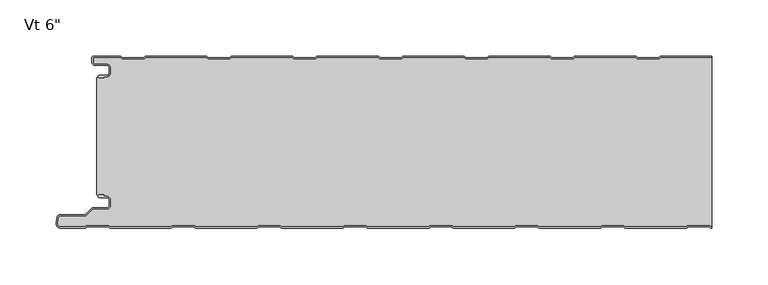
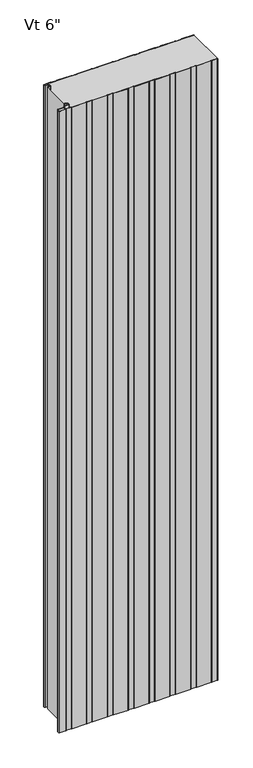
"""IFC4 building model written with IfcOpenShell, lengths in millimetres: plate geometry."""

from ifc_helpers import new_model, si_unit, point, frame, frame_2d, origin, origin_with_axes, place, context, project, spatial, polyline, circle_curve, trimmed, segment, composite_curve, outline, extrude, source, transform, mapped, element, save
from ifc_brep_helpers import plane_surface, cylinder_surface, revolved_surface, advanced_brep


def plate_2dc741f4(model_context):
    return source(origin(), model_context, "Body", "SolidModel", [
        advanced_brep(
        [(-270.768691, -17.0015159, 2400.0), (-271.7686883, -18.0015191, 2400.0), (-270.768691, -19.0015105, 2400.0), (-266.7684874, -19.0015105, 2400.0), (-266.7684874, -18.0015159, 2400.0), (-264.0762776, -18.0015159, 2400.0), (-260.7762819, -14.7015202, 2400.0), (-260.7762819, -10.301529, 2400.0), (-264.0762774, -7.0015335, 2400.0), (-274.4962563, -7.0015335, 2400.0), (-276.2662505, -5.2315393, 2400.0), (-276.2662505, -0.9999916, 2400.0), (-251.7659738, -0.9999916, 2400.0), (-250.3803312, -2.2002307, 2400.0), (-231.0051649, -2.2002307, 2400.0), (-229.619532, -1.0, 2400.0), (-175.5661166, -1.0, 2400.0), (-174.1804836, -2.2002307, 2400.0), (-154.8053173, -2.2002307, 2400.0), (-153.4196844, -1.0, 2400.0), (-99.366269, -1.0, 2400.0), (-97.980636, -2.2002307, 2400.0), (-78.6054697, -2.2002307, 2400.0), (-77.2198368, -1.0, 2400.0), (-23.1664214, -1.0, 2400.0), (-21.7807884, -2.2002307, 2400.0), (-2.4056221, -2.2002307, 2400.0), (-1.0199892, -1.0, 2400.0), (53.0334262, -1.0, 2400.0), (54.4190592, -2.2002307, 2400.0), (73.7942255, -2.2002307, 2400.0), (75.1798584, -1.0, 2400.0), (129.2332738, -1.0, 2400.0), (130.6189068, -2.2002307, 2400.0), (149.9940731, -2.2002307, 2400.0), (151.379706, -1.0, 2400.0), (205.4331214, -1.0, 2400.0), (206.8187544, -2.2002307, 2400.0), (226.1939207, -2.2002307, 2400.0), (227.5795536, -1.0, 2400.0), (272.7999998, -1.0, 2400.0), (272.7999998, 0.0, 2400.0), (227.7287048, 0.0, 2400.0), (226.8120879, -0.3417885, 2400.0), (225.8210403, -1.2002307, 2400.0), (207.1916348, -1.2002307, 2400.0), (206.2005872, -0.3417885, 2400.0), (205.2839703, 0.0, 2400.0), (151.5288572, 0.0, 2400.0), (150.6122403, -0.3417885, 2400.0), (149.6211927, -1.2002307, 2400.0), (130.9917872, -1.2002307, 2400.0), (130.0007396, -0.3417885, 2400.0), (129.0841227, 0.0, 2400.0), (75.3290096, 0.0, 2400.0), (74.4123927, -0.3417885, 2400.0), (73.4213451, -1.2002307, 2400.0), (54.7919396, -1.2002307, 2400.0), (53.800892, -0.3417885, 2400.0), (52.8842751, 0.0, 2400.0), (-0.870838, 0.0, 2400.0), (-1.7874549, -0.3417885, 2400.0), (-2.7785025, -1.2002307, 2400.0), (-21.407908, -1.2002307, 2400.0), (-22.3989556, -0.3417885, 2400.0), (-23.3155725, 0.0, 2400.0), (-77.0706856, 0.0, 2400.0), (-77.9873025, -0.3417885, 2400.0), (-78.9783501, -1.2002307, 2400.0), (-97.6077556, -1.2002307, 2400.0), (-98.5988032, -0.3417885, 2400.0), (-99.5154201, 0.0, 2400.0), (-153.2705332, 0.0, 2400.0), (-154.1871501, -0.3417885, 2400.0), (-155.1781977, -1.2002307, 2400.0), (-173.8076032, -1.2002307, 2400.0), (-174.7986508, -0.3417885, 2400.0), (-175.7152677, 0.0, 2400.0), (-229.4703808, 0.0, 2400.0), (-230.3869977, -0.3417885, 2400.0), (-231.3780453, -1.2002307, 2400.0), (-250.0074508, -1.2002307, 2400.0), (-250.9984984, -0.3417885, 2400.0), (-251.9152067, 0.0, 2400.0), (-275.8662543, 8.4e-06, 2400.0), (-277.2662505, -1.3999878, 2400.0), (-277.2662505, -5.2315393, 2400.0), (-274.4962563, -8.0015335, 2400.0), (-264.0762774, -8.0015335, 2400.0), (-261.7762819, -10.301529, 2400.0), (-261.7762819, -14.7015202, 2400.0), (-264.0762776, -17.0015159, 2400.0), (-270.768691, -17.0015159, 0.0), (-264.0762776, -17.0015159, 0.0), (-261.7762819, -14.7015202, 0.0), (-261.7762819, -10.301529, 0.0), (-264.0762774, -8.0015335, 0.0), (-274.4962563, -8.0015335, 0.0), (-277.2662505, -5.2315393, 0.0), (-277.2662505, -1.3999878, 0.0), (-275.8662543, 8.4e-06, 0.0), (-251.9151153, 8.4e-06, 0.0), (-250.9984984, -0.3417885, 0.0), (-250.0074508, -1.2002307, 0.0), (-231.3780453, -1.2002307, 0.0), (-230.3869977, -0.3417885, 0.0), (-229.4703808, 0.0, 0.0), (-175.7152677, 0.0, 0.0), (-174.7986508, -0.3417885, 0.0), (-173.8076032, -1.2002307, 0.0), (-155.1781977, -1.2002307, 0.0), (-154.1871501, -0.3417885, 0.0), (-153.2705332, 0.0, 0.0), (-99.5154201, 0.0, 0.0), (-98.5988032, -0.3417885, 0.0), (-97.6077556, -1.2002307, 0.0), (-78.9783501, -1.2002307, 0.0), (-77.9873025, -0.3417885, 0.0), (-77.0706856, 0.0, 0.0), (-23.3155725, 0.0, 0.0), (-22.3989556, -0.3417885, 0.0), (-21.407908, -1.2002307, 0.0), (-2.7785025, -1.2002307, 0.0), (-1.7874549, -0.3417885, 0.0), (-0.870838, 0.0, 0.0), (52.8842751, 0.0, 0.0), (53.800892, -0.3417885, 0.0), (54.7919396, -1.2002307, 0.0), (73.4213451, -1.2002307, 0.0), (74.4123927, -0.3417885, 0.0), (75.3290096, 0.0, 0.0), (129.0841227, 0.0, 0.0), (130.0007396, -0.3417885, 0.0), (130.9917872, -1.2002307, 0.0), (149.6211927, -1.2002307, 0.0), (150.6122403, -0.3417885, 0.0), (151.5288572, 0.0, 0.0), (205.2839703, 0.0, 0.0), (206.2005872, -0.3417885, 0.0), (207.1916348, -1.2002307, 0.0), (225.8210403, -1.2002307, 0.0), (226.8120879, -0.3417885, 0.0), (227.7287048, 0.0, 0.0), (272.7999998, 0.0, 0.0), (272.7999998, -1.0, 0.0), (227.5795536, -1.0, 0.0), (226.1939207, -2.2002307, 0.0), (206.8187544, -2.2002307, 0.0), (205.4331214, -1.0, 0.0), (151.379706, -1.0, 0.0), (149.9940731, -2.2002307, 0.0), (130.6189068, -2.2002307, 0.0), (129.2332738, -1.0, 0.0), (75.1798584, -1.0, 0.0), (73.7942255, -2.2002307, 0.0), (54.4190592, -2.2002307, 0.0), (53.0334262, -1.0, 0.0), (-1.0199892, -1.0, 0.0), (-2.4056221, -2.2002307, 0.0), (-21.7807884, -2.2002307, 0.0), (-23.1664214, -1.0, 0.0), (-77.2198368, -1.0, 0.0), (-78.6054697, -2.2002307, 0.0), (-97.980636, -2.2002307, 0.0), (-99.366269, -1.0, 0.0), (-153.4196844, -1.0, 0.0), (-154.8053173, -2.2002307, 0.0), (-174.1804836, -2.2002307, 0.0), (-175.5661166, -1.0, 0.0), (-229.619532, -1.0, 0.0), (-231.0051649, -2.2002307, 0.0), (-250.3803312, -2.2002307, 0.0), (-251.7659738, -0.9999916, 0.0), (-276.2662505, -0.9999916, 0.0), (-276.2662505, -5.2315393, 0.0), (-274.4962563, -7.0015335, 0.0), (-264.0762774, -7.0015335, 0.0), (-260.7762819, -10.301529, 0.0), (-260.7762819, -14.7015202, 0.0), (-264.0762776, -18.0015159, 0.0), (-266.7684874, -18.0015159, 0.0), (-266.7684874, -19.0015105, 0.0), (-270.768691, -19.0015105, 0.0), (-271.7686882, -18.0015192, 0.0)],
        [
            (0, 1, circle_curve(frame((-270.768691, -18.0015132, 2400.0), z_axis=(0.0, 0.0, 1.0), x_axis=(1.0, 0.0, 0.0)), 0.9999973)),
            (1, 2, circle_curve(frame((-270.768691, -18.0015133, 2400.0), z_axis=(0.0, 0.0, 1.0), x_axis=(1.0, 0.0, 0.0)), 0.9999972)),
            (2, 3),
            (3, 4),
            (4, 5),
            (5, 6, circle_curve(frame((-264.0762776, -14.7015202, 2400.0), z_axis=(0.0, 0.0, 1.0), x_axis=(1.0, 0.0, 0.0)), 3.2999957)),
            (6, 7),
            (7, 8, circle_curve(frame((-264.0762774, -10.301529, 2400.0), z_axis=(0.0, 0.0, 1.0), x_axis=(1.0, 0.0, 0.0)), 3.2999955)),
            (8, 9),
            (9, 10, circle_curve(frame((-274.4962563, -5.2315393, 2400.0), z_axis=(0.0, 0.0, -1.0), x_axis=(1.0, 0.0, 0.0)), 1.7699942)),
            (10, 11),
            (11, 12),
            (12, 13),
            (13, 14),
            (14, 15),
            (15, 16),
            (16, 17),
            (17, 18),
            (18, 19),
            (19, 20),
            (20, 21),
            (21, 22),
            (22, 23),
            (23, 24),
            (24, 25),
            (25, 26),
            (26, 27),
            (27, 28),
            (28, 29),
            (29, 30),
            (30, 31),
            (31, 32),
            (32, 33),
            (33, 34),
            (34, 35),
            (35, 36),
            (36, 37),
            (37, 38),
            (38, 39),
            (39, 40),
            (40, 41),
            (41, 42),
            (42, 43, circle_curve(frame((227.7287048, -1.3999972, 2400.0), z_axis=(0.0, 0.0, 1.0), x_axis=(1.0, 0.0, 0.0)), 1.3999972)),
            (43, 44),
            (44, 45),
            (45, 46),
            (46, 47, circle_curve(frame((205.2839703, -1.3999972, 2400.0), z_axis=(0.0, 0.0, 1.0), x_axis=(1.0, 0.0, 0.0)), 1.3999972)),
            (47, 48),
            (48, 49, circle_curve(frame((151.5288572, -1.3999972, 2400.0), z_axis=(0.0, 0.0, 1.0), x_axis=(1.0, 0.0, 0.0)), 1.3999972)),
            (49, 50),
            (50, 51),
            (51, 52),
            (52, 53, circle_curve(frame((129.0841227, -1.3999972, 2400.0), z_axis=(0.0, 0.0, 1.0), x_axis=(1.0, 0.0, 0.0)), 1.3999972)),
            (53, 54),
            (54, 55, circle_curve(frame((75.3290096, -1.3999972, 2400.0), z_axis=(0.0, 0.0, 1.0), x_axis=(1.0, 0.0, 0.0)), 1.3999972)),
            (55, 56),
            (56, 57),
            (57, 58),
            (58, 59, circle_curve(frame((52.8842751, -1.3999972, 2400.0), z_axis=(0.0, 0.0, 1.0), x_axis=(1.0, 0.0, 0.0)), 1.3999972)),
            (59, 60),
            (60, 61, circle_curve(frame((-0.870838, -1.3999972, 2400.0), z_axis=(0.0, 0.0, 1.0), x_axis=(1.0, 0.0, 0.0)), 1.3999972)),
            (61, 62),
            (62, 63),
            (63, 64),
            (64, 65, circle_curve(frame((-23.3155725, -1.3999972, 2400.0), z_axis=(0.0, 0.0, 1.0), x_axis=(1.0, 0.0, 0.0)), 1.3999972)),
            (65, 66),
            (66, 67, circle_curve(frame((-77.0706856, -1.3999972, 2400.0), z_axis=(0.0, 0.0, 1.0), x_axis=(1.0, 0.0, 0.0)), 1.3999972)),
            (67, 68),
            (68, 69),
            (69, 70),
            (70, 71, circle_curve(frame((-99.5154201, -1.3999972, 2400.0), z_axis=(0.0, 0.0, 1.0), x_axis=(1.0, 0.0, 0.0)), 1.3999972)),
            (71, 72),
            (72, 73, circle_curve(frame((-153.2705332, -1.3999972, 2400.0), z_axis=(0.0, 0.0, 1.0), x_axis=(1.0, 0.0, 0.0)), 1.3999972)),
            (73, 74),
            (74, 75),
            (75, 76),
            (76, 77, circle_curve(frame((-175.7152677, -1.3999972, 2400.0), z_axis=(0.0, 0.0, 1.0), x_axis=(1.0, 0.0, 0.0)), 1.3999972)),
            (77, 78),
            (78, 79, circle_curve(frame((-229.4703808, -1.3999972, 2400.0), z_axis=(0.0, 0.0, 1.0), x_axis=(1.0, 0.0, 0.0)), 1.3999972)),
            (79, 80),
            (80, 81),
            (81, 82),
            (82, 83, circle_curve(frame((-251.9151153, -1.3999972, 2400.0), z_axis=(0.0, 0.0, 1.0), x_axis=(1.0, 0.0, 0.0)), 1.3999972)),
            (83, 84),
            (84, 85, circle_curve(frame((-275.8662543, -1.3999878, 2400.0), z_axis=(0.0, 0.0, 1.0), x_axis=(1.0, 0.0, 0.0)), 1.3999962)),
            (85, 86),
            (86, 87, circle_curve(frame((-274.4962563, -5.2315393, 2400.0), z_axis=(0.0, 0.0, 1.0), x_axis=(1.0, 0.0, 0.0)), 2.7699942)),
            (87, 88),
            (88, 89, circle_curve(frame((-264.0762774, -10.301529, 2400.0), z_axis=(0.0, 0.0, -1.0), x_axis=(1.0, 0.0, 0.0)), 2.2999955)),
            (89, 90),
            (90, 91, circle_curve(frame((-264.0762776, -14.7015202, 2400.0), z_axis=(0.0, 0.0, -1.0), x_axis=(1.0, 0.0, 0.0)), 2.2999957)),
            (91, 0),
            (92, 93),
            (93, 94, circle_curve(frame((-264.0762776, -14.7015202, 0.0), z_axis=(0.0, 0.0, 1.0), x_axis=(1.0, 0.0, 0.0)), 2.2999957)),
            (94, 95),
            (95, 96, circle_curve(frame((-264.0762774, -10.301529, 0.0), z_axis=(0.0, 0.0, 1.0), x_axis=(1.0, 0.0, 0.0)), 2.2999955)),
            (96, 97),
            (97, 98, circle_curve(frame((-274.4962563, -5.2315393, 0.0), z_axis=(0.0, 0.0, -1.0), x_axis=(1.0, 0.0, 0.0)), 2.7699942)),
            (98, 99),
            (99, 100, circle_curve(frame((-275.8662543, -1.3999878, 0.0), z_axis=(0.0, 0.0, -1.0), x_axis=(1.0, 0.0, 0.0)), 1.3999962)),
            (100, 101),
            (101, 102, circle_curve(frame((-251.9151153, -1.3999972, 0.0), z_axis=(0.0, 0.0, -1.0), x_axis=(1.0, 0.0, 0.0)), 1.3999972)),
            (102, 103),
            (103, 104),
            (104, 105),
            (105, 106, circle_curve(frame((-229.4703808, -1.3999972, 0.0), z_axis=(0.0, 0.0, -1.0), x_axis=(1.0, 0.0, 0.0)), 1.3999972)),
            (106, 107),
            (107, 108, circle_curve(frame((-175.7152677, -1.3999972, 0.0), z_axis=(0.0, 0.0, -1.0), x_axis=(1.0, 0.0, 0.0)), 1.3999972)),
            (108, 109),
            (109, 110),
            (110, 111),
            (111, 112, circle_curve(frame((-153.2705332, -1.3999972, 0.0), z_axis=(0.0, 0.0, -1.0), x_axis=(1.0, 0.0, 0.0)), 1.3999972)),
            (112, 113),
            (113, 114, circle_curve(frame((-99.5154201, -1.3999972, 0.0), z_axis=(0.0, 0.0, -1.0), x_axis=(1.0, 0.0, 0.0)), 1.3999972)),
            (114, 115),
            (115, 116),
            (116, 117),
            (117, 118, circle_curve(frame((-77.0706856, -1.3999972, 0.0), z_axis=(0.0, 0.0, -1.0), x_axis=(1.0, 0.0, 0.0)), 1.3999972)),
            (118, 119),
            (119, 120, circle_curve(frame((-23.3155725, -1.3999972, 0.0), z_axis=(0.0, 0.0, -1.0), x_axis=(1.0, 0.0, 0.0)), 1.3999972)),
            (120, 121),
            (121, 122),
            (122, 123),
            (123, 124, circle_curve(frame((-0.870838, -1.3999972, 0.0), z_axis=(0.0, 0.0, -1.0), x_axis=(1.0, 0.0, 0.0)), 1.3999972)),
            (124, 125),
            (125, 126, circle_curve(frame((52.8842751, -1.3999972, 0.0), z_axis=(0.0, 0.0, -1.0), x_axis=(1.0, 0.0, 0.0)), 1.3999972)),
            (126, 127),
            (127, 128),
            (128, 129),
            (129, 130, circle_curve(frame((75.3290096, -1.3999972, 0.0), z_axis=(0.0, 0.0, -1.0), x_axis=(1.0, 0.0, 0.0)), 1.3999972)),
            (130, 131),
            (131, 132, circle_curve(frame((129.0841227, -1.3999972, 0.0), z_axis=(0.0, 0.0, -1.0), x_axis=(1.0, 0.0, 0.0)), 1.3999972)),
            (132, 133),
            (133, 134),
            (134, 135),
            (135, 136, circle_curve(frame((151.5288572, -1.3999972, 0.0), z_axis=(0.0, 0.0, -1.0), x_axis=(1.0, 0.0, 0.0)), 1.3999972)),
            (136, 137),
            (137, 138, circle_curve(frame((205.2839703, -1.3999972, 0.0), z_axis=(0.0, 0.0, -1.0), x_axis=(1.0, 0.0, 0.0)), 1.3999972)),
            (138, 139),
            (139, 140),
            (140, 141),
            (141, 142, circle_curve(frame((227.7287048, -1.3999972, 0.0), z_axis=(0.0, 0.0, -1.0), x_axis=(1.0, 0.0, 0.0)), 1.3999972)),
            (142, 143),
            (143, 144),
            (144, 145),
            (145, 146),
            (146, 147),
            (147, 148),
            (148, 149),
            (149, 150),
            (150, 151),
            (151, 152),
            (152, 153),
            (153, 154),
            (154, 155),
            (155, 156),
            (156, 157),
            (157, 158),
            (158, 159),
            (159, 160),
            (160, 161),
            (161, 162),
            (162, 163),
            (163, 164),
            (164, 165),
            (165, 166),
            (166, 167),
            (167, 168),
            (168, 169),
            (169, 170),
            (170, 171),
            (171, 172),
            (172, 173),
            (173, 174),
            (174, 175, circle_curve(frame((-274.4962563, -5.2315393, 0.0), z_axis=(0.0, 0.0, 1.0), x_axis=(1.0, 0.0, 0.0)), 1.7699942)),
            (175, 176),
            (176, 177, circle_curve(frame((-264.0762774, -10.301529, 0.0), z_axis=(0.0, 0.0, -1.0), x_axis=(1.0, 0.0, 0.0)), 3.2999955)),
            (177, 178),
            (178, 179, circle_curve(frame((-264.0762776, -14.7015202, 0.0), z_axis=(0.0, 0.0, -1.0), x_axis=(1.0, 0.0, 0.0)), 3.2999957)),
            (179, 180),
            (180, 181),
            (181, 182),
            (182, 183, circle_curve(frame((-270.768691, -18.0015133, 0.0), z_axis=(0.0, 0.0, -1.0), x_axis=(1.0, 0.0, 0.0)), 0.9999972)),
            (183, 92, circle_curve(frame((-270.768691, -18.0015132, 0.0), z_axis=(0.0, 0.0, -1.0), x_axis=(1.0, 0.0, 0.0)), 0.9999973)),
            (91, 93),
            (92, 0),
            (90, 94),
            (89, 95),
            (88, 96),
            (87, 97),
            (86, 98),
            (85, 99),
            (84, 100),
            (83, 101),
            (10, 174),
            (173, 11),
            (9, 175),
            (8, 176),
            (7, 177),
            (6, 178),
            (5, 179),
            (4, 180),
            (3, 181),
            (2, 182),
            (1, 183),
            (40, 144),
            (143, 41),
            (82, 102),
            (81, 103),
            (80, 104),
            (79, 105),
            (78, 106),
            (77, 107),
            (76, 108),
            (75, 109),
            (74, 110),
            (73, 111),
            (72, 112),
            (71, 113),
            (70, 114),
            (69, 115),
            (68, 116),
            (67, 117),
            (66, 118),
            (65, 119),
            (64, 120),
            (63, 121),
            (62, 122),
            (61, 123),
            (60, 124),
            (59, 125),
            (58, 126),
            (57, 127),
            (56, 128),
            (55, 129),
            (54, 130),
            (53, 131),
            (52, 132),
            (51, 133),
            (50, 134),
            (49, 135),
            (48, 136),
            (47, 137),
            (46, 138),
            (45, 139),
            (44, 140),
            (43, 141),
            (42, 142),
            (39, 145),
            (38, 146),
            (37, 147),
            (36, 148),
            (35, 149),
            (34, 150),
            (33, 151),
            (32, 152),
            (31, 153),
            (30, 154),
            (29, 155),
            (28, 156),
            (27, 157),
            (26, 158),
            (25, 159),
            (24, 160),
            (23, 161),
            (22, 162),
            (21, 163),
            (20, 164),
            (19, 165),
            (18, 166),
            (17, 167),
            (16, 168),
            (15, 169),
            (14, 170),
            (13, 171),
            (12, 172),
        ],
        [
            plane_surface(frame((184.4000002, 0.0, 2400.0), z_axis=(0.0, 0.0, 1.0), x_axis=(0.0, 1.0, 0.0))),
            plane_surface(frame((184.4000002, 0.0, 0.0), z_axis=(0.0, 0.0, -1.0), x_axis=(0.0, 1.0, 0.0))),
            plane_surface(frame((-270.768691, -17.0015159, 2400.0), z_axis=(0.0, 1.0, 0.0), x_axis=(0.0, 0.0, -1.0))),
            revolved_surface(polyline([(-261.7762819, -14.7015202, 0.0), (-261.7762819, -14.7015202, 2400.0)]), (-264.0762776, -14.7015202, 2400.0), (0.0, 0.0, -1.0)),
            plane_surface(frame((-261.7762819, -14.7015202, 2400.0), z_axis=(-1.0, 0.0, 0.0), x_axis=(0.0, 0.0, -1.0))),
            revolved_surface(polyline([(-261.77628189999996, -10.301529, 0.0), (-261.77628189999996, -10.301529, 2400.0)]), (-264.0762774, -10.301529, 2400.0), (0.0, 0.0, -1.0)),
            plane_surface(frame((-264.0762774, -8.0015335, 2400.0), z_axis=(0.0, -1.0, 0.0), x_axis=(0.0, 0.0, -1.0))),
            cylinder_surface(frame((-274.4962563, -5.2315393, 2400.0), z_axis=(0.0, 0.0, 1.0), x_axis=(1.0, 0.0, 0.0)), 2.7699942),
            plane_surface(frame((-277.2662505, -5.2315393, 2400.0), z_axis=(-1.0, 0.0, 0.0), x_axis=(0.0, 0.0, -1.0))),
            cylinder_surface(frame((-275.8662543, -1.3999878, 2400.0), z_axis=(0.0, 0.0, 1.0), x_axis=(1.0, 0.0, 0.0)), 1.3999962),
            plane_surface(frame((-275.8662543, 8.4e-06, 2400.0), z_axis=(0.0, 1.0, 0.0), x_axis=(0.0, 0.0, -1.0))),
            plane_surface(frame((-276.2662505, -0.9999916, 2400.0), z_axis=(1.0, 0.0, 0.0), x_axis=(0.0, 0.0, -1.0))),
            revolved_surface(polyline([(-272.72626210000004, -5.2315393, 0.0), (-272.72626210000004, -5.2315393, 2400.0)]), (-274.4962563, -5.2315393, 2400.0), (0.0, 0.0, -1.0)),
            plane_surface(frame((-274.4962563, -7.0015335, 2400.0), z_axis=(0.0, 1.0, 0.0), x_axis=(0.0, 0.0, -1.0))),
            cylinder_surface(frame((-264.0762774, -10.301529, 2400.0), z_axis=(0.0, 0.0, 1.0), x_axis=(1.0, 0.0, 0.0)), 3.2999955),
            plane_surface(frame((-260.7762819, -10.301529, 2400.0), z_axis=(1.0, 0.0, 0.0), x_axis=(0.0, 0.0, -1.0))),
            cylinder_surface(frame((-264.0762776, -14.7015202, 2400.0), z_axis=(0.0, 0.0, 1.0), x_axis=(1.0, 0.0, 0.0)), 3.2999957),
            plane_surface(frame((-264.0762776, -18.0015159, 2400.0), z_axis=(0.0, -1.0, 0.0), x_axis=(0.0, 0.0, -1.0))),
            plane_surface(frame((-266.7684874, -18.0015159, 2400.0), z_axis=(1.0, 0.0, 0.0), x_axis=(0.0, 0.0, -1.0))),
            plane_surface(frame((-266.7684874, -19.0015105, 2400.0), z_axis=(0.0, -1.0, 0.0), x_axis=(0.0, 0.0, -1.0))),
            cylinder_surface(frame((-270.768691, -18.0015133, 2400.0), z_axis=(0.0, 0.0, 1.0), x_axis=(1.0, 0.0, 0.0)), 0.9999972),
            cylinder_surface(frame((-270.768691, -18.0015132, 2400.0), z_axis=(0.0, 0.0, 1.0), x_axis=(1.0, 0.0, 0.0)), 0.9999973),
            plane_surface(frame((272.7999998, -162.4, 2400.0), z_axis=(1.0, 0.0, 0.0), x_axis=(0.0, 0.0, -1.0))),
            cylinder_surface(frame((-251.9151153, -1.3999972, 2400.0), z_axis=(0.0, 0.0, 1.0), x_axis=(1.0, 0.0, 0.0)), 1.3999972),
            plane_surface(frame((-250.9984984, -0.3417885, 2400.0), z_axis=(0.6547276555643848, 0.7558648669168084, 0.0), x_axis=(0.0, 0.0, -1.0))),
            plane_surface(frame((-240.6927481, -1.2002307, 2400.0), z_axis=(0.0, 1.0, 0.0), x_axis=(0.0, 0.0, -1.0))),
            plane_surface(frame((-231.3780453, -1.2002307, 2400.0), z_axis=(-0.6547276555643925, 0.7558648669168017, 0.0), x_axis=(0.0, 0.0, -1.0))),
            cylinder_surface(frame((-229.4703808, -1.3999972, 2400.0), z_axis=(0.0, 0.0, 1.0), x_axis=(1.0, 0.0, 0.0)), 1.3999972),
            plane_surface(frame((-229.4703808, 0.0, 2400.0), z_axis=(0.0, 1.0, 0.0), x_axis=(0.0, 0.0, -1.0))),
            cylinder_surface(frame((-175.7152677, -1.3999972, 2400.0), z_axis=(0.0, 0.0, 1.0), x_axis=(1.0, 0.0, 0.0)), 1.3999972),
            plane_surface(frame((-174.7986508, -0.3417885, 2400.0), z_axis=(0.6547276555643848, 0.7558648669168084, 0.0), x_axis=(0.0, 0.0, -1.0))),
            plane_surface(frame((-164.4929005, -1.2002307, 2400.0), z_axis=(0.0, 1.0, 0.0), x_axis=(0.0, 0.0, -1.0))),
            plane_surface(frame((-155.1781977, -1.2002307, 2400.0), z_axis=(-0.6547276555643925, 0.7558648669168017, 0.0), x_axis=(0.0, 0.0, -1.0))),
            cylinder_surface(frame((-153.2705332, -1.3999972, 2400.0), z_axis=(0.0, 0.0, 1.0), x_axis=(1.0, 0.0, 0.0)), 1.3999972),
            plane_surface(frame((-153.2705332, 0.0, 2400.0), z_axis=(0.0, 1.0, 0.0), x_axis=(0.0, 0.0, -1.0))),
            cylinder_surface(frame((-99.5154201, -1.3999972, 2400.0), z_axis=(0.0, 0.0, 1.0), x_axis=(1.0, 0.0, 0.0)), 1.3999972),
            plane_surface(frame((-98.5988032, -0.3417885, 2400.0), z_axis=(0.6547276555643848, 0.7558648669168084, 0.0), x_axis=(0.0, 0.0, -1.0))),
            plane_surface(frame((-88.2930529, -1.2002307, 2400.0), z_axis=(0.0, 1.0, 0.0), x_axis=(0.0, 0.0, -1.0))),
            plane_surface(frame((-78.9783501, -1.2002307, 2400.0), z_axis=(-0.6547276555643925, 0.7558648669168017, 0.0), x_axis=(0.0, 0.0, -1.0))),
            cylinder_surface(frame((-77.0706856, -1.3999972, 2400.0), z_axis=(0.0, 0.0, 1.0), x_axis=(1.0, 0.0, 0.0)), 1.3999972),
            plane_surface(frame((-77.0706856, 0.0, 2400.0), z_axis=(0.0, 1.0, 0.0), x_axis=(0.0, 0.0, -1.0))),
            cylinder_surface(frame((-23.3155725, -1.3999972, 2400.0), z_axis=(0.0, 0.0, 1.0), x_axis=(1.0, 0.0, 0.0)), 1.3999972),
            plane_surface(frame((-22.3989556, -0.3417885, 2400.0), z_axis=(0.6547276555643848, 0.7558648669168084, 0.0), x_axis=(0.0, 0.0, -1.0))),
            plane_surface(frame((-12.0932053, -1.2002307, 2400.0), z_axis=(0.0, 1.0, 0.0), x_axis=(0.0, 0.0, -1.0))),
            plane_surface(frame((-2.7785025, -1.2002307, 2400.0), z_axis=(-0.6547276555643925, 0.7558648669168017, 0.0), x_axis=(0.0, 0.0, -1.0))),
            cylinder_surface(frame((-0.870838, -1.3999972, 2400.0), z_axis=(0.0, 0.0, 1.0), x_axis=(1.0, 0.0, 0.0)), 1.3999972),
            plane_surface(frame((-0.870838, 0.0, 2400.0), z_axis=(0.0, 1.0, 0.0), x_axis=(0.0, 0.0, -1.0))),
            cylinder_surface(frame((52.8842751, -1.3999972, 2400.0), z_axis=(0.0, 0.0, 1.0), x_axis=(1.0, 0.0, 0.0)), 1.3999972),
            plane_surface(frame((53.800892, -0.3417885, 2400.0), z_axis=(0.6547276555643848, 0.7558648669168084, 0.0), x_axis=(0.0, 0.0, -1.0))),
            plane_surface(frame((64.1066423, -1.2002307, 2400.0), z_axis=(0.0, 1.0, 0.0), x_axis=(0.0, 0.0, -1.0))),
            plane_surface(frame((73.4213451, -1.2002307, 2400.0), z_axis=(-0.6547276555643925, 0.7558648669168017, 0.0), x_axis=(0.0, 0.0, -1.0))),
            cylinder_surface(frame((75.3290096, -1.3999972, 2400.0), z_axis=(0.0, 0.0, 1.0), x_axis=(1.0, 0.0, 0.0)), 1.3999972),
            plane_surface(frame((75.3290096, 0.0, 2400.0), z_axis=(0.0, 1.0, 0.0), x_axis=(0.0, 0.0, -1.0))),
            cylinder_surface(frame((129.0841227, -1.3999972, 2400.0), z_axis=(0.0, 0.0, 1.0), x_axis=(1.0, 0.0, 0.0)), 1.3999972),
            plane_surface(frame((130.0007396, -0.3417885, 2400.0), z_axis=(0.6547276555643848, 0.7558648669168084, 0.0), x_axis=(0.0, 0.0, -1.0))),
            plane_surface(frame((140.3064899, -1.2002307, 2400.0), z_axis=(0.0, 1.0, 0.0), x_axis=(0.0, 0.0, -1.0))),
            plane_surface(frame((149.6211927, -1.2002307, 2400.0), z_axis=(-0.6547276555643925, 0.7558648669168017, 0.0), x_axis=(0.0, 0.0, -1.0))),
            cylinder_surface(frame((151.5288572, -1.3999972, 2400.0), z_axis=(0.0, 0.0, 1.0), x_axis=(1.0, 0.0, 0.0)), 1.3999972),
            plane_surface(frame((151.5288572, 0.0, 2400.0), z_axis=(0.0, 1.0, 0.0), x_axis=(0.0, 0.0, -1.0))),
            cylinder_surface(frame((205.2839703, -1.3999972, 2400.0), z_axis=(0.0, 0.0, 1.0), x_axis=(1.0, 0.0, 0.0)), 1.3999972),
            plane_surface(frame((206.2005872, -0.3417885, 2400.0), z_axis=(0.6547276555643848, 0.7558648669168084, 0.0), x_axis=(0.0, 0.0, -1.0))),
            plane_surface(frame((216.5063375, -1.2002307, 2400.0), z_axis=(0.0, 1.0, 0.0), x_axis=(0.0, 0.0, -1.0))),
            plane_surface(frame((225.8210403, -1.2002307, 2400.0), z_axis=(-0.6547276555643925, 0.7558648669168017, 0.0), x_axis=(0.0, 0.0, -1.0))),
            cylinder_surface(frame((227.7287048, -1.3999972, 2400.0), z_axis=(0.0, 0.0, 1.0), x_axis=(1.0, 0.0, 0.0)), 1.3999972),
            plane_surface(frame((227.7287048, 0.0, 2400.0), z_axis=(0.0, 1.0, 0.0), x_axis=(0.0, 0.0, -1.0))),
            plane_surface(frame((281.632969, -1.0, 2400.0), z_axis=(0.0, -1.0, 0.0), x_axis=(0.0, 0.0, -1.0))),
            plane_surface(frame((227.5795536, -1.0, 2400.0), z_axis=(0.6547276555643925, -0.7558648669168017, 0.0), x_axis=(0.0, 0.0, -1.0))),
            plane_surface(frame((226.1939207, -2.2002307, 2400.0), z_axis=(0.0, -1.0, 0.0), x_axis=(0.0, 0.0, -1.0))),
            plane_surface(frame((206.8187544, -2.2002307, 2400.0), z_axis=(-0.6547276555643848, -0.7558648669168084, 0.0), x_axis=(0.0, 0.0, -1.0))),
            plane_surface(frame((205.4331214, -1.0, 2400.0), z_axis=(0.0, -1.0, 0.0), x_axis=(0.0, 0.0, -1.0))),
            plane_surface(frame((151.379706, -1.0, 2400.0), z_axis=(0.6547276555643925, -0.7558648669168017, 0.0), x_axis=(0.0, 0.0, -1.0))),
            plane_surface(frame((149.9940731, -2.2002307, 2400.0), z_axis=(0.0, -1.0, 0.0), x_axis=(0.0, 0.0, -1.0))),
            plane_surface(frame((130.6189068, -2.2002307, 2400.0), z_axis=(-0.6547276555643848, -0.7558648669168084, 0.0), x_axis=(0.0, 0.0, -1.0))),
            plane_surface(frame((129.2332738, -1.0, 2400.0), z_axis=(0.0, -1.0, 0.0), x_axis=(0.0, 0.0, -1.0))),
            plane_surface(frame((75.1798584, -1.0, 2400.0), z_axis=(0.6547276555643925, -0.7558648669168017, 0.0), x_axis=(0.0, 0.0, -1.0))),
            plane_surface(frame((73.7942255, -2.2002307, 2400.0), z_axis=(0.0, -1.0, 0.0), x_axis=(0.0, 0.0, -1.0))),
            plane_surface(frame((54.4190592, -2.2002307, 2400.0), z_axis=(-0.6547276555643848, -0.7558648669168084, 0.0), x_axis=(0.0, 0.0, -1.0))),
            plane_surface(frame((53.0334262, -1.0, 2400.0), z_axis=(0.0, -1.0, 0.0), x_axis=(0.0, 0.0, -1.0))),
            plane_surface(frame((-1.0199892, -1.0, 2400.0), z_axis=(0.6547276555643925, -0.7558648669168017, 0.0), x_axis=(0.0, 0.0, -1.0))),
            plane_surface(frame((-2.4056221, -2.2002307, 2400.0), z_axis=(0.0, -1.0, 0.0), x_axis=(0.0, 0.0, -1.0))),
            plane_surface(frame((-21.7807884, -2.2002307, 2400.0), z_axis=(-0.6547276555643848, -0.7558648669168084, 0.0), x_axis=(0.0, 0.0, -1.0))),
            plane_surface(frame((-23.1664214, -1.0, 2400.0), z_axis=(0.0, -1.0, 0.0), x_axis=(0.0, 0.0, -1.0))),
            plane_surface(frame((-77.2198368, -1.0, 2400.0), z_axis=(0.6547276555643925, -0.7558648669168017, 0.0), x_axis=(0.0, 0.0, -1.0))),
            plane_surface(frame((-78.6054697, -2.2002307, 2400.0), z_axis=(0.0, -1.0, 0.0), x_axis=(0.0, 0.0, -1.0))),
            plane_surface(frame((-97.980636, -2.2002307, 2400.0), z_axis=(-0.6547276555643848, -0.7558648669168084, 0.0), x_axis=(0.0, 0.0, -1.0))),
            plane_surface(frame((-99.366269, -1.0, 2400.0), z_axis=(0.0, -1.0, 0.0), x_axis=(0.0, 0.0, -1.0))),
            plane_surface(frame((-153.4196844, -1.0, 2400.0), z_axis=(0.6547276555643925, -0.7558648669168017, 0.0), x_axis=(0.0, 0.0, -1.0))),
            plane_surface(frame((-154.8053173, -2.2002307, 2400.0), z_axis=(0.0, -1.0, 0.0), x_axis=(0.0, 0.0, -1.0))),
            plane_surface(frame((-174.1804836, -2.2002307, 2400.0), z_axis=(-0.6547276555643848, -0.7558648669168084, 0.0), x_axis=(0.0, 0.0, -1.0))),
            plane_surface(frame((-175.5661166, -1.0, 2400.0), z_axis=(0.0, -1.0, 0.0), x_axis=(0.0, 0.0, -1.0))),
            plane_surface(frame((-229.619532, -1.0, 2400.0), z_axis=(0.6547276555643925, -0.7558648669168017, 0.0), x_axis=(0.0, 0.0, -1.0))),
            plane_surface(frame((-231.0051649, -2.2002307, 2400.0), z_axis=(0.0, -1.0, 0.0), x_axis=(0.0, 0.0, -1.0))),
            plane_surface(frame((-250.3803312, -2.2002307, 2400.0), z_axis=(-0.6547276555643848, -0.7558648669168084, 0.0), x_axis=(0.0, 0.0, -1.0))),
            plane_surface(frame((-251.7659738, -0.9999916, 2400.0), z_axis=(0.0, -1.0, 0.0), x_axis=(0.0, 0.0, -1.0))),
        ],
        [
            (0, [[1, 2, 3, 4, 5, 6, 7, 8, 9, 10, 11, 12, 13, 14, 15, 16, 17, 18, 19, 20, 21, 22, 23, 24, 25, 26, 27, 28, 29, 30, 31, 32, 33, 34, 35, 36, 37, 38, 39, 40, 41, 42, 43, 44, 45, 46, 47, 48, 49, 50, 51, 52, 53, 54, 55, 56, 57, 58, 59, 60, 61, 62, 63, 64, 65, 66, 67, 68, 69, 70, 71, 72, 73, 74, 75, 76, 77, 78, 79, 80, 81, 82, 83, 84, 85, 86, 87, 88, 89, 90, 91, 92]]),
            (1, [[93, 94, 95, 96, 97, 98, 99, 100, 101, 102, 103, 104, 105, 106, 107, 108, 109, 110, 111, 112, 113, 114, 115, 116, 117, 118, 119, 120, 121, 122, 123, 124, 125, 126, 127, 128, 129, 130, 131, 132, 133, 134, 135, 136, 137, 138, 139, 140, 141, 142, 143, 144, 145, 146, 147, 148, 149, 150, 151, 152, 153, 154, 155, 156, 157, 158, 159, 160, 161, 162, 163, 164, 165, 166, 167, 168, 169, 170, 171, 172, 173, 174, 175, 176, 177, 178, 179, 180, 181, 182, 183, 184]]),
            (2, [[185, -93, 186, -92]]),
            (3, [[187, -94, -185, -91]]),
            (4, [[188, -95, -187, -90]]),
            (5, [[189, -96, -188, -89]]),
            (6, [[190, -97, -189, -88]]),
            (7, [[191, -98, -190, -87]]),
            (8, [[192, -99, -191, -86]]),
            (9, [[193, -100, -192, -85]]),
            (10, [[194, -101, -193, -84]]),
            (11, [[195, -174, 196, -11]]),
            (12, [[197, -175, -195, -10]]),
            (13, [[198, -176, -197, -9]]),
            (14, [[199, -177, -198, -8]]),
            (15, [[200, -178, -199, -7]]),
            (16, [[201, -179, -200, -6]]),
            (17, [[202, -180, -201, -5]]),
            (18, [[203, -181, -202, -4]]),
            (19, [[204, -182, -203, -3]]),
            (20, [[205, -183, -204, -2]]),
            (21, [[-186, -184, -205, -1]]),
            (22, [[206, -144, 207, -41]]),
            (23, [[208, -102, -194, -83]]),
            (24, [[209, -103, -208, -82]]),
            (25, [[210, -104, -209, -81]]),
            (26, [[211, -105, -210, -80]]),
            (27, [[212, -106, -211, -79]]),
            (28, [[213, -107, -212, -78]]),
            (29, [[214, -108, -213, -77]]),
            (30, [[215, -109, -214, -76]]),
            (31, [[216, -110, -215, -75]]),
            (32, [[217, -111, -216, -74]]),
            (33, [[218, -112, -217, -73]]),
            (34, [[219, -113, -218, -72]]),
            (35, [[220, -114, -219, -71]]),
            (36, [[221, -115, -220, -70]]),
            (37, [[222, -116, -221, -69]]),
            (38, [[223, -117, -222, -68]]),
            (39, [[224, -118, -223, -67]]),
            (40, [[225, -119, -224, -66]]),
            (41, [[226, -120, -225, -65]]),
            (42, [[227, -121, -226, -64]]),
            (43, [[228, -122, -227, -63]]),
            (44, [[229, -123, -228, -62]]),
            (45, [[230, -124, -229, -61]]),
            (46, [[231, -125, -230, -60]]),
            (47, [[232, -126, -231, -59]]),
            (48, [[233, -127, -232, -58]]),
            (49, [[234, -128, -233, -57]]),
            (50, [[235, -129, -234, -56]]),
            (51, [[236, -130, -235, -55]]),
            (52, [[237, -131, -236, -54]]),
            (53, [[238, -132, -237, -53]]),
            (54, [[239, -133, -238, -52]]),
            (55, [[240, -134, -239, -51]]),
            (56, [[241, -135, -240, -50]]),
            (57, [[242, -136, -241, -49]]),
            (58, [[243, -137, -242, -48]]),
            (59, [[244, -138, -243, -47]]),
            (60, [[245, -139, -244, -46]]),
            (61, [[246, -140, -245, -45]]),
            (62, [[247, -141, -246, -44]]),
            (63, [[248, -142, -247, -43]]),
            (64, [[-42, -207, -143, -248]]),
            (65, [[-145, -206, -40, 249]]),
            (66, [[250, -146, -249, -39]]),
            (67, [[251, -147, -250, -38]]),
            (68, [[252, -148, -251, -37]]),
            (69, [[253, -149, -252, -36]]),
            (70, [[254, -150, -253, -35]]),
            (71, [[255, -151, -254, -34]]),
            (72, [[256, -152, -255, -33]]),
            (73, [[257, -153, -256, -32]]),
            (74, [[258, -154, -257, -31]]),
            (75, [[259, -155, -258, -30]]),
            (76, [[260, -156, -259, -29]]),
            (77, [[261, -157, -260, -28]]),
            (78, [[262, -158, -261, -27]]),
            (79, [[263, -159, -262, -26]]),
            (80, [[264, -160, -263, -25]]),
            (81, [[265, -161, -264, -24]]),
            (82, [[266, -162, -265, -23]]),
            (83, [[267, -163, -266, -22]]),
            (84, [[268, -164, -267, -21]]),
            (85, [[269, -165, -268, -20]]),
            (86, [[270, -166, -269, -19]]),
            (87, [[271, -167, -270, -18]]),
            (88, [[272, -168, -271, -17]]),
            (89, [[273, -169, -272, -16]]),
            (90, [[274, -170, -273, -15]]),
            (91, [[275, -171, -274, -14]]),
            (92, [[276, -172, -275, -13]]),
            (93, [[-196, -173, -276, -12]]),
        ],
    ),
        extrude(outline(composite_curve([segment(polyline([(-283.4415932, -152.3997378), (-305.2521175, -152.3997378)]), True, "CONTINUOUS"), segment(trimmed(circle_curve(frame_2d((-305.2521175, -148.8294985)), 3.5702393), [point((-305.2521175, -152.3997378))], [point((-308.8087619, -148.5182281))], False, "CARTESIAN"), True, "CONTINUOUS"), segment(polyline([(-308.8087619, -148.5182281), (-308.3690674, -143.4941815)]), True, "CONTINUOUS"), segment(trimmed(circle_curve(frame_2d((-304.7198391, -144.1049826)), 3.6999926), [point((-308.3690674, -143.4941815))], [point((-304.7198391, -140.40499))], False, "CARTESIAN"), True, "CONTINUOUS"), segment(polyline([(-304.7198391, -140.40499), (-283.5773995, -140.40499)]), True, "CONTINUOUS"), segment(trimmed(circle_curve(frame_2d((-283.5773995, -139.1049926)), 1.2999974), [point((-283.5773995, -140.40499))], [point((-282.6581626, -140.0242296))], True, "CARTESIAN"), True, "CONTINUOUS"), segment(polyline([(-282.6581626, -140.0242296), (-277.8297451, -135.1958121)]), True, "CONTINUOUS"), segment(trimmed(circle_curve(frame_2d((-275.9205606, -137.1049966)), 2.6999946), [point((-277.8297451, -135.1958121))], [point((-275.9205606, -134.405002))], False, "CARTESIAN"), True, "CONTINUOUS"), segment(polyline([(-275.9205606, -134.405002), (-264.1096715, -134.405002)]), True, "CONTINUOUS"), segment(trimmed(circle_curve(frame_2d((-264.1096715, -132.0550067)), 2.3499953), [point((-264.1096715, -134.405002))], [point((-261.7596762, -132.0550067))], True, "CARTESIAN"), True, "CONTINUOUS"), segment(polyline([(-261.7596762, -132.0550067), (-261.7596762, -127.6550155)]), True, "CONTINUOUS"), segment(trimmed(circle_curve(frame_2d((-264.1096715, -127.6550155)), 2.3499953), [point((-261.7596762, -127.6550155))], [point((-264.1096715, -125.3050202))], True, "CARTESIAN"), True, "CONTINUOUS"), segment(polyline([(-264.1096715, -125.3050202), (-270.6289777, -125.3050202)]), True, "CONTINUOUS"), segment(trimmed(circle_curve(frame_2d((-270.5686906, -124.106538)), 1.1999976), [point((-270.6289777, -125.3050202))], [point((-271.7683, -124.0760161))], False, "CARTESIAN"), True, "CONTINUOUS"), segment(trimmed(circle_curve(frame_2d((-270.5686906, -124.106538)), 1.1999976), [point((-271.7683, -124.0760161))], [point((-270.567176, -122.9065413))], False, "CARTESIAN"), True, "CONTINUOUS"), segment(polyline([(-270.567176, -122.9065413), (-266.8087826, -122.9065413), (-266.8087826, -124.3050202), (-264.1096715, -124.3050202)]), True, "CONTINUOUS"), segment(trimmed(circle_curve(frame_2d((-264.1096715, -127.6550155)), 3.3499953), [point((-264.1096715, -124.3050202))], [point((-260.7596762, -127.6550155))], False, "CARTESIAN"), True, "CONTINUOUS"), segment(polyline([(-260.7596762, -127.6550155), (-260.7596762, -132.0550067)]), True, "CONTINUOUS"), segment(trimmed(circle_curve(frame_2d((-264.1096715, -132.0550067)), 3.3499953), [point((-260.7596762, -132.0550067))], [point((-264.1096715, -135.405002))], False, "CARTESIAN"), True, "CONTINUOUS"), segment(polyline([(-264.1096715, -135.405002), (-275.9205606, -135.405002)]), True, "CONTINUOUS"), segment(trimmed(circle_curve(frame_2d((-275.9205606, -137.1049966)), 1.6999946), [point((-275.9205606, -135.405002))], [point((-277.1226383, -135.9029189))], True, "CARTESIAN"), True, "CONTINUOUS"), segment(polyline([(-277.1226383, -135.9029189), (-282.6247094, -141.40499), (-304.7198391, -141.40499)]), True, "CONTINUOUS"), segment(trimmed(circle_curve(frame_2d((-304.7198391, -144.1049826)), 2.6999926), [point((-304.7198391, -141.40499))], [point((-307.3765707, -143.623592))], True, "CARTESIAN"), True, "CONTINUOUS"), segment(polyline([(-307.3765707, -143.623592), (-307.8125697, -148.6054129)]), True, "CONTINUOUS"), segment(trimmed(circle_curve(frame_2d((-305.2521175, -148.8294985)), 2.5702393), [point((-307.8125697, -148.6054129))], [point((-305.2521175, -151.3997378))], True, "CARTESIAN"), True, "CONTINUOUS"), segment(polyline([(-305.2521175, -151.3997378), (-283.279096, -151.3997378), (-282.0791275, -150.1997693), (-262.359715, -150.1997693), (-261.1594843, -151.4), (-207.0793525, -151.4), (-205.8791218, -150.1997693), (-186.1597093, -150.1997693), (-184.9594786, -151.4), (-130.8793468, -151.4), (-129.6791161, -150.1997693), (-109.9597036, -150.1997693), (-108.7594729, -151.4), (-54.6793411, -151.4), (-53.4791104, -150.1997693), (-33.7596979, -150.1997693), (-32.5594672, -151.4), (21.5206646, -151.4), (22.7208953, -150.1997693), (42.4403078, -150.1997693), (43.6405385, -151.4), (97.7206703, -151.4), (98.920901, -150.1997693), (118.6403135, -150.1997693), (119.8405442, -151.4), (173.9206759, -151.4), (175.1209066, -150.1997693), (194.8403192, -150.1997693), (196.0405499, -151.4), (250.1206816, -151.4), (251.3209123, -150.1997693), (271.0403248, -150.1997693), (272.2405555, -151.4), (272.7999998, -151.4), (272.7999998, -152.4), (272.4096744, -152.4)]), True, "CONTINUOUS"), segment(trimmed(circle_curve(frame_2d((272.402021, -151.0000237)), 1.3999972), [point((272.4096744, -152.4))], [point((271.3579702, -151.9327349))], False, "CARTESIAN"), True, "CONTINUOUS"), segment(polyline([(271.3579702, -151.9327349), (270.6250046, -151.1997693), (251.7343354, -151.1997693), (251.0013908, -151.932714)]), True, "CONTINUOUS"), segment(trimmed(circle_curve(frame_2d((249.95734, -151.0000028)), 1.3999972), [point((251.0013908, -151.932714))], [point((249.95734, -152.4))], False, "CARTESIAN"), True, "CONTINUOUS"), segment(polyline([(249.95734, -152.4), (196.2098268, -152.4)]), True, "CONTINUOUS"), segment(trimmed(circle_curve(frame_2d((196.2021734, -151.0000237)), 1.3999972), [point((196.2098268, -152.4))], [point((195.1581226, -151.9327349))], False, "CARTESIAN"), True, "CONTINUOUS"), segment(polyline([(195.1581226, -151.9327349), (194.425157, -151.1997693), (175.5344878, -151.1997693), (174.8015432, -151.932714)]), True, "CONTINUOUS"), segment(trimmed(circle_curve(frame_2d((173.7574924, -151.0000028)), 1.3999972), [point((174.8015432, -151.932714))], [point((173.7574924, -152.4))], False, "CARTESIAN"), True, "CONTINUOUS"), segment(polyline([(173.7574924, -152.4), (120.0099792, -152.4)]), True, "CONTINUOUS"), segment(trimmed(circle_curve(frame_2d((120.0023258, -151.0000237)), 1.3999972), [point((120.0099792, -152.4))], [point((118.958275, -151.9327349))], False, "CARTESIAN"), True, "CONTINUOUS"), segment(polyline([(118.958275, -151.9327349), (118.2253094, -151.1997693), (99.3346402, -151.1997693), (98.6016956, -151.932714)]), True, "CONTINUOUS"), segment(trimmed(circle_curve(frame_2d((97.5576448, -151.0000028)), 1.3999972), [point((98.6016956, -151.932714))], [point((97.5576448, -152.4))], False, "CARTESIAN"), True, "CONTINUOUS"), segment(polyline([(97.5576448, -152.4), (43.8101316, -152.4)]), True, "CONTINUOUS"), segment(trimmed(circle_curve(frame_2d((43.8024782, -151.0000237)), 1.3999972), [point((43.8101316, -152.4))], [point((42.7584274, -151.9327349))], False, "CARTESIAN"), True, "CONTINUOUS"), segment(polyline([(42.7584274, -151.9327349), (42.0254618, -151.1997693), (23.1347926, -151.1997693), (22.401848, -151.932714)]), True, "CONTINUOUS"), segment(trimmed(circle_curve(frame_2d((21.3577972, -151.0000028)), 1.3999972), [point((22.401848, -151.932714))], [point((21.3577972, -152.4))], False, "CARTESIAN"), True, "CONTINUOUS"), segment(polyline([(21.3577972, -152.4), (-32.389716, -152.4)]), True, "CONTINUOUS"), segment(trimmed(circle_curve(frame_2d((-32.3973694, -151.0000237)), 1.3999972), [point((-32.389716, -152.4))], [point((-33.4414202, -151.9327349))], False, "CARTESIAN"), True, "CONTINUOUS"), segment(polyline([(-33.4414202, -151.9327349), (-34.1743858, -151.1997693), (-53.065055, -151.1997693), (-53.7979996, -151.932714)]), True, "CONTINUOUS"), segment(trimmed(circle_curve(frame_2d((-54.8420504, -151.0000028)), 1.3999972), [point((-53.7979996, -151.932714))], [point((-54.8420504, -152.4))], False, "CARTESIAN"), True, "CONTINUOUS"), segment(polyline([(-54.8420504, -152.4), (-108.5895636, -152.4)]), True, "CONTINUOUS"), segment(trimmed(circle_curve(frame_2d((-108.597217, -151.0000237)), 1.3999972), [point((-108.5895636, -152.4))], [point((-109.6412678, -151.9327349))], False, "CARTESIAN"), True, "CONTINUOUS"), segment(polyline([(-109.6412678, -151.9327349), (-110.3742334, -151.1997693), (-129.2649026, -151.1997693), (-129.9978472, -151.932714)]), True, "CONTINUOUS"), segment(trimmed(circle_curve(frame_2d((-131.041898, -151.0000028)), 1.3999972), [point((-129.9978472, -151.932714))], [point((-131.041898, -152.4))], False, "CARTESIAN"), True, "CONTINUOUS"), segment(polyline([(-131.041898, -152.4), (-184.7894112, -152.4)]), True, "CONTINUOUS"), segment(trimmed(circle_curve(frame_2d((-184.7970646, -151.0000237)), 1.3999972), [point((-184.7894112, -152.4))], [point((-185.8411154, -151.9327349))], False, "CARTESIAN"), True, "CONTINUOUS"), segment(polyline([(-185.8411154, -151.9327349), (-186.574081, -151.1997693), (-205.4647502, -151.1997693), (-206.1976948, -151.932714)]), True, "CONTINUOUS"), segment(trimmed(circle_curve(frame_2d((-207.2417456, -151.0000028)), 1.3999972), [point((-206.1976948, -151.932714))], [point((-207.2417456, -152.4))], False, "CARTESIAN"), True, "CONTINUOUS"), segment(polyline([(-207.2417456, -152.4), (-260.9892588, -152.4)]), True, "CONTINUOUS"), segment(trimmed(circle_curve(frame_2d((-260.9969122, -151.0000237)), 1.3999972), [point((-260.9892588, -152.4))], [point((-262.040963, -151.9327349))], False, "CARTESIAN"), True, "CONTINUOUS"), segment(polyline([(-262.040963, -151.9327349), (-262.7739286, -151.1997693), (-281.6649139, -151.1997693), (-282.3976402, -151.9324955)]), True, "CONTINUOUS"), segment(trimmed(circle_curve(frame_2d((-283.4415932, -150.9998717)), 1.3998661), [point((-282.3976402, -151.9324955))], [point((-283.4415932, -152.3997378))], False, "CARTESIAN"), True, "CONTINUOUS")], self_intersect=False)), origin_with_axes(), (0.0, 0.0, 1.0), 2400.0),
        extrude(outline(composite_curve([segment(polyline([(-271.7683, -124.0760161), (-272.7999998, -123.0443162), (-272.7999998, -19.0328308), (-271.7686882, -18.0015192)]), True, "CONTINUOUS"), segment(trimmed(circle_curve(frame_2d((-270.768691, -18.0015133)), 0.9999972), [point((-271.7686882, -18.0015192))], [point((-270.768691, -19.0015105))], True, "CARTESIAN"), True, "CONTINUOUS"), segment(polyline([(-270.768691, -19.0015105), (-266.7684873, -19.0015105), (-266.7684873, -18.0015159), (-264.0762775, -18.0015159)]), True, "CONTINUOUS"), segment(trimmed(circle_curve(frame_2d((-264.0762775, -14.7015202)), 3.2999957), [point((-264.0762775, -18.0015159))], [point((-260.7762818, -14.7015202))], True, "CARTESIAN"), True, "CONTINUOUS"), segment(polyline([(-260.7762818, -14.7015202), (-260.7762818, -10.301529)]), True, "CONTINUOUS"), segment(trimmed(circle_curve(frame_2d((-264.0762777, -10.301529)), 3.2999959), [point((-260.7762818, -10.301529))], [point((-264.0762777, -7.0015331))], True, "CARTESIAN"), True, "CONTINUOUS"), segment(polyline([(-264.0762777, -7.0015331), (-274.4962562, -7.0015331)]), True, "CONTINUOUS"), segment(trimmed(circle_curve(frame_2d((-274.4962562, -5.2315389)), 1.7699942), [point((-274.4962562, -7.0015331))], [point((-276.2662504, -5.2315389))], False, "CARTESIAN"), True, "CONTINUOUS"), segment(polyline([(-276.2662504, -5.2315389), (-276.2662504, -0.9999916), (-251.7659738, -0.9999916), (-250.3803312, -2.2002307), (-231.0051649, -2.2002307), (-229.6195319, -1.0), (-175.5661165, -1.0), (-174.1804836, -2.2002307), (-154.8053173, -2.2002307), (-153.4196843, -1.0), (-99.3662689, -1.0), (-97.980636, -2.2002307), (-78.6054697, -2.2002307), (-77.2198367, -1.0), (-23.1664213, -1.0), (-21.7807884, -2.2002307), (-2.4056221, -2.2002307), (-1.0199891, -1.0), (53.0334263, -1.0), (54.4190592, -2.2002307), (73.7942255, -2.2002307), (75.1798585, -1.0), (129.2332739, -1.0), (130.6189068, -2.2002307), (149.9940731, -2.2002307), (151.3797061, -1.0), (205.4331215, -1.0), (206.8187544, -2.2002307), (226.1939207, -2.2002307), (227.5795537, -1.0), (272.7999998, -1.0), (272.7999998, -151.4), (272.2405555, -151.4), (271.0403248, -150.1997693), (251.3209123, -150.1997693), (250.1206816, -151.4), (196.0405499, -151.4), (194.8403192, -150.1997693), (175.1209066, -150.1997693), (173.9206759, -151.4), (119.8405442, -151.4), (118.6403135, -150.1997693), (98.920901, -150.1997693), (97.7206703, -151.4), (43.6405385, -151.4), (42.4403078, -150.1997693), (22.7208953, -150.1997693), (21.5206646, -151.4), (-32.5594672, -151.4), (-33.7596979, -150.1997693), (-53.4791104, -150.1997693), (-54.6793411, -151.4), (-108.7594729, -151.4), (-109.9597036, -150.1997693), (-129.6791161, -150.1997693), (-130.8793468, -151.4), (-184.9594786, -151.4), (-186.1597093, -150.1997693), (-205.8791218, -150.1997693), (-207.0793525, -151.4), (-261.1594843, -151.4), (-262.359715, -150.1997693), (-282.0791275, -150.1997693), (-283.279096, -151.3997378), (-305.2521175, -151.3997378)]), True, "CONTINUOUS"), segment(trimmed(circle_curve(frame_2d((-305.2521175, -148.8294985)), 2.5702393), [point((-305.2521175, -151.3997378))], [point((-307.8125697, -148.6054129))], False, "CARTESIAN"), True, "CONTINUOUS"), segment(polyline([(-307.8125697, -148.6054129), (-307.3765707, -143.623592)]), True, "CONTINUOUS"), segment(trimmed(circle_curve(frame_2d((-304.7198391, -144.1049826)), 2.6999926), [point((-307.3765707, -143.623592))], [point((-304.7198391, -141.40499))], False, "CARTESIAN"), True, "CONTINUOUS"), segment(polyline([(-304.7198391, -141.40499), (-282.6247094, -141.40499), (-277.1226383, -135.9029189)]), True, "CONTINUOUS"), segment(trimmed(circle_curve(frame_2d((-275.9205606, -137.1049966)), 1.6999946), [point((-277.1226383, -135.9029189))], [point((-275.9205606, -135.405002))], False, "CARTESIAN"), True, "CONTINUOUS"), segment(polyline([(-275.9205606, -135.405002), (-264.1096715, -135.405002)]), True, "CONTINUOUS"), segment(trimmed(circle_curve(frame_2d((-264.1096715, -132.0550067)), 3.3499953), [point((-264.1096715, -135.405002))], [point((-260.7596762, -132.0550067))], True, "CARTESIAN"), True, "CONTINUOUS"), segment(polyline([(-260.7596762, -132.0550067), (-260.7596762, -127.6550155)]), True, "CONTINUOUS"), segment(trimmed(circle_curve(frame_2d((-264.1096715, -127.6550155)), 3.3499953), [point((-260.7596762, -127.6550155))], [point((-264.1096715, -124.3050202))], True, "CARTESIAN"), True, "CONTINUOUS"), segment(polyline([(-264.1096715, -124.3050202), (-266.8087826, -124.3050202), (-266.8087826, -122.9065413), (-270.567176, -122.9065413)]), True, "CONTINUOUS"), segment(trimmed(circle_curve(frame_2d((-270.5686906, -124.106538)), 1.1999976), [point((-270.567176, -122.9065413))], [point((-271.7683, -124.0760161))], True, "CARTESIAN"), True, "CONTINUOUS")], self_intersect=False)), origin_with_axes(), (0.0, 0.0, 1.0), 2400.0),
    ])


if __name__ == "__main__":
    model = new_model("IFC4")
    model_context = context("Model", 3, world=origin())
    ifc_project = project(units=[si_unit("LENGTHUNIT", "METRE", prefix="MILLI")], contexts=[model_context])
    site = spatial("IfcSite", under=ifc_project)
    building = spatial("IfcBuilding", under=site)
    placement = place(None, origin())
    plate_shape = plate_2dc741f4(model_context)
    element("IfcPlate", 1, ObjectType="KIP-36-Karrier-KP-R19-CP-Vt-SL3-8in_SL : Vt 6\"", at=placement, inside=building, context=model_context, shape_type="MappedRepresentation", body=[
        mapped(plate_shape, transform((0.0, 0.0, 0.0), x_axis=(1.0, 0.0, 0.0), y_axis=(0.0, 1.0, 0.0), z_axis=(0.0, 0.0, 1.0))),
    ])
    save(model, "model.ifc")
